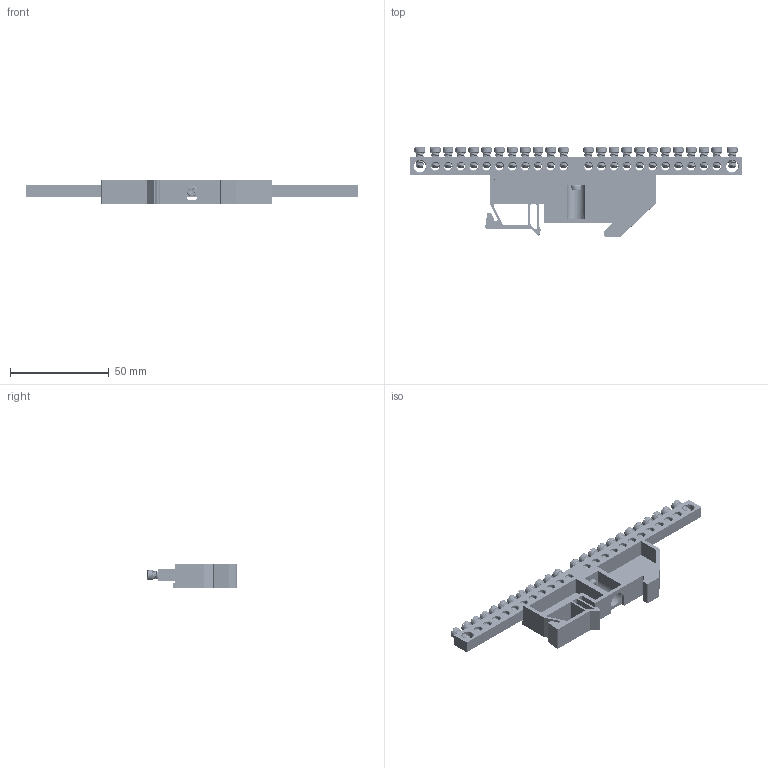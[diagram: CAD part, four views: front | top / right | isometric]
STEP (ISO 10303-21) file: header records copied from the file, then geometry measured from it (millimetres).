
FILE_DESCRIPTION (( 'STEP AP214' ), '1' );
FILE_NAME ('Øèíà íóëåâàÿ ñ DIN èçîëÿòîðîì 6õ9 24.STEP', '2020-02-06T11:35:13', ( '' ), ( '' ), 'SwSTEP 2.0', 'SolidWorks 2018', '' );
FILE_SCHEMA (( 'AUTOMOTIVE_DESIGN' ));
Length unit declared in the file: millimetre
Products named in the file (5): DIN èçîëÿòîð; Øèíà íóëåâàÿ ñ êðåïåæíûì îòâåðñòèåì ïî öåíòðó 6õ9 24-1_1; Âèíò ì4; Øèíà 6õ9 24 1; Øèíà íóëåâàÿ ñ DIN èçîëÿòîðîì 6õ9 24
Assembly tree (28 placements, depth 3):
  Øèíà íóëåâàÿ ñ DIN èçîëÿòîðîì 6õ9 24
    Øèíà íóëåâàÿ ñ êðåïåæíûì îòâåðñòèåì ïî öåíòðó 6õ9 24-1_1
      Øèíà 6õ9 24 1
      Âèíò ì4  x24
    Âèíò ì4
    DIN èçîëÿòîð
Bounding box: 168 x 45.1 x 12 mm (x, y, z)
Volume: 21539.7 mm3; surface area: 22716.4 mm2
Topology: 27 solids, 27 shells, 2092 faces, 5813 edges, 3742 vertices
Faces by surface type: plane 751, cylinder 734, cone 321, torus 176, bspline 100, sphere 10
Entity records: 16831 total; most frequent: CARTESIAN_POINT 5629, DIRECTION 2230, ORIENTED_EDGE 2148, EDGE_CURVE 1074, AXIS2_PLACEMENT_3D 850, VERTEX_POINT 670, VECTOR 530, LINE 530
